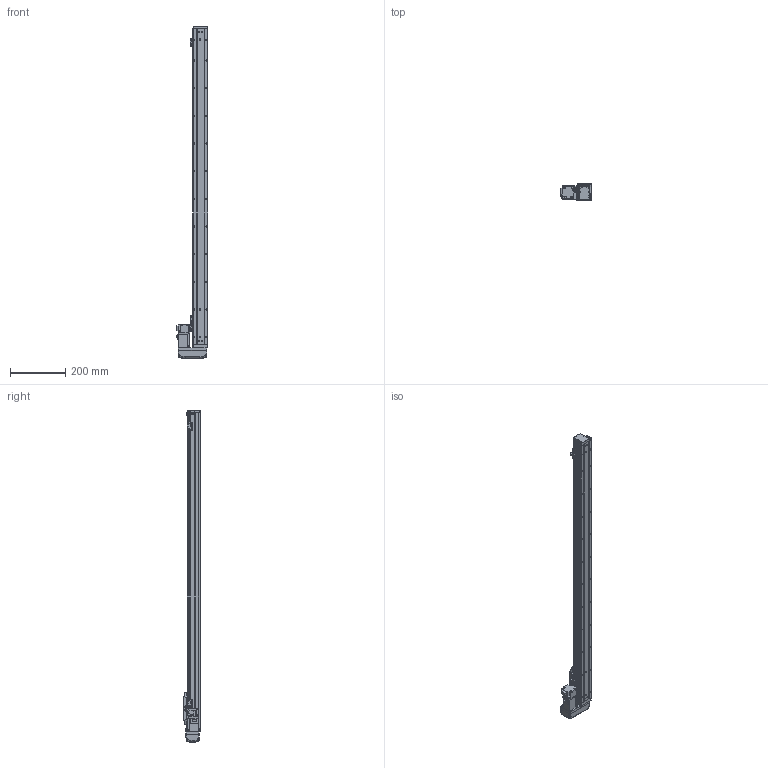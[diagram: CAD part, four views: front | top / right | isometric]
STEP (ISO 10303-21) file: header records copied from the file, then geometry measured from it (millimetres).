
FILE_DESCRIPTION (( 'STEP AP203' ), '1' );
FILE_NAME ('GTH5-1000-BL-M10-C4.step', '2023-08-28T00:48:00', ( '微软用户' ), ( '微软中国' ), 'SwSTEP 2.0', 'SolidWorks 2020', '' );
FILE_SCHEMA (( 'CONFIG_CONTROL_DESIGN' ));
Length unit declared in the file: millimetre
Products named in the file (19): GTH50-026; GTH50-001_1000; GTH50-024; GTH5-1000-BL-M10-C4; GBT 70.1-M4×16; GBT 70.1-M2.5×6; GTH50-003; GTH50-028; GTH50-006; GTH50-013; GTH50-022-1; GTH50-004; GTH50-023; HG-KR13; GBT 70.3-M3℅6; GBT 70.1-M3℅6; GTH50-027-1_BTHA50-027-2; BTH-M3X5X6; GBT96.1-2002 3×0.8
Assembly tree (57 placements, depth 2):
  GTH5-1000-BL-M10-C4
    GTH50-006
    GTH50-004
    GBT 70.3-M3℅6  x4
    BTH-M3X5X6  x8
    GTH50-001_1000
    GBT 70.1-M4×16  x8
    GTH50-003
    GTH50-013
    GTH50-023  x3
    GBT 70.1-M3℅6  x12
    GBT96.1-2002 3×0.8  x6
    GTH50-024  x3
    GBT 70.1-M2.5×6  x2
    GTH50-028  x2
    GTH50-022-1
    HG-KR13
    GTH50-027-1_BTHA50-027-2
    GTH50-026
Bounding box: 113.8 x 60 x 1200 mm (x, y, z)
Volume: 2634833.8 mm3; surface area: 401788.3 mm2
Topology: 59 solids, 59 shells, 2176 faces, 5064 edges, 3108 vertices
Faces by surface type: plane 1142, cylinder 605, cone 219, torus 162, bspline 40, sphere 8
Entity records: 40752 total; most frequent: CARTESIAN_POINT 8043, DIRECTION 6297, ORIENTED_EDGE 6042, EDGE_CURVE 3021, AXIS2_PLACEMENT_3D 2200, VERTEX_POINT 1910, LINE 1897, VECTOR 1897
